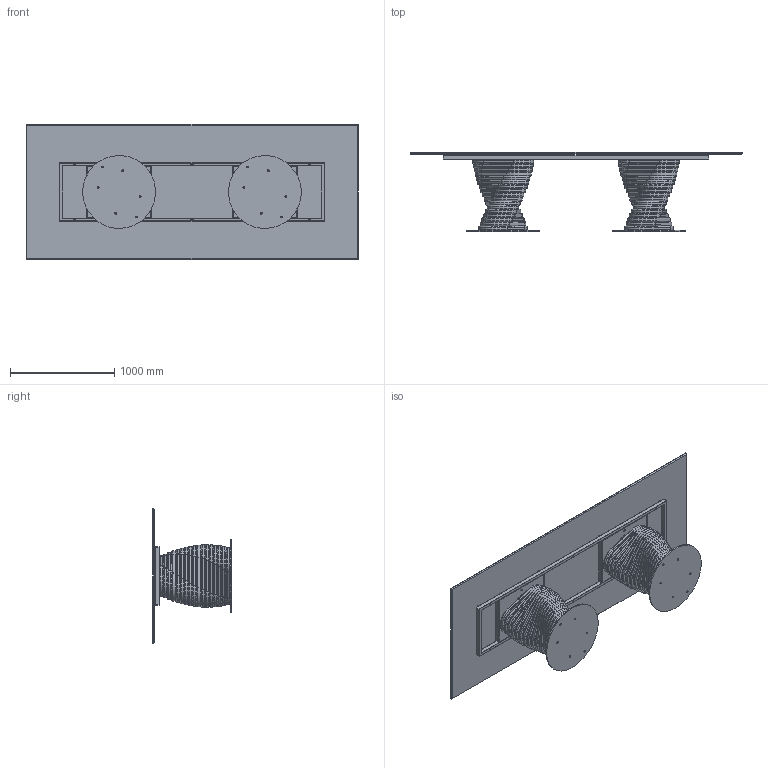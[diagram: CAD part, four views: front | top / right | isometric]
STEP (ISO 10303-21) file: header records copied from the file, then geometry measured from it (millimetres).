
FILE_DESCRIPTION (( 'STEP AP203' ), '1' );
FILE_NAME ('RO27C.STEP', '2024-08-07T13:19:50', ( '' ), ( '' ), 'SwSTEP 2.0', 'SolidWorks 2022', '' );
FILE_SCHEMA (( 'CONFIG_CONTROL_DESIGN' ));
Length unit declared in the file: millimetre
Products named in the file (15): COLLO TELAIO UNIVERSALE TTAV03 CON FERRAMENTA_MTG TOP CRISTALLO VERNICIATO-CERAMICA; M8xXXmm_M8x20mm; TTAV03-06-TELAIO UNIVERSALE X TAVOLI 300-340cm; M8xXXmm_hex_M8X20mm; K2XCMXX-00-Piani Rettangolari in ceramica_3190 x 1300; TTAV03_01-06-RING TUBO TELAIO UNIVERSALE X TAVOLI 300-340cm; rondella M8_8X24; TTAV03_02-06-VASSOIO IRRIGIDIMENTO TELAIO UNIVERSALE RETTANGOLARE; RO27C; ROBX00000-00-ROTOLO BASE 17 ANELLI; ROBX00000INF-00-Anello rotolo INFERIORE_Default<A macchina>; ROBX00000MED-00-Anello rotolo MEDIO_Default<A macchina>; ROBX00000SUP-00-Anello rotolo SUPERIORE_Default<A macchina>; ROB200000-00-PIASTRA BASE_Ø70cm; 434070-00-PIEDINO TPV GOMMA NERO D. 30x8max18_filo estetico
Assembly tree (63 placements, depth 4):
  RO27C
    ROB200000-00-PIASTRA BASE_Ø70cm  x2
    COLLO TELAIO UNIVERSALE TTAV03 CON FERRAMENTA_MTG TOP CRISTALLO VERNICIATO-CERAMICA
      TTAV03-06-TELAIO UNIVERSALE X TAVOLI 300-340cm
        TTAV03_01-06-RING TUBO TELAIO UNIVERSALE X TAVOLI 300-340cm
        TTAV03_02-06-VASSOIO IRRIGIDIMENTO TELAIO UNIVERSALE RETTANGOLARE  x2
      434070-00-PIEDINO TPV GOMMA NERO D. 30x8max18_filo estetico  x8
    ROBX00000-00-ROTOLO BASE 17 ANELLI  x2
      ROBX00000INF-00-Anello rotolo INFERIORE_Default<A macchina>
      ROBX00000MED-00-Anello rotolo MEDIO_Default<A macchina>
      ROBX00000SUP-00-Anello rotolo SUPERIORE_Default<A macchina>
    M8xXXmm_hex_M8X20mm  x12
    rondella M8_8X24  x8
    M8xXXmm_M8x20mm  x8
    K2XCMXX-00-Piani Rettangolari in ceramica_3190 x 1300
Bounding box: 3190 x 758 x 1300 mm (x, y, z)
Volume: 89751265.3 mm3; surface area: 31246307 mm2
Topology: 187 solids, 187 shells, 2844 faces, 6688 edges, 4172 vertices
Faces by surface type: plane 1180, cylinder 1000, torus 424, cone 232, sphere 8
Entity records: 21552 total; most frequent: CARTESIAN_POINT 4776, DIRECTION 3041, ORIENTED_EDGE 2768, EDGE_CURVE 1384, AXIS2_PLACEMENT_3D 1140, VERTEX_POINT 867, VECTOR 761, LINE 761
